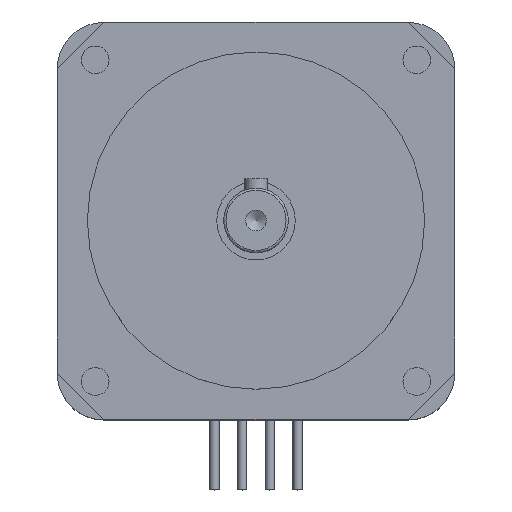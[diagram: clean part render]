
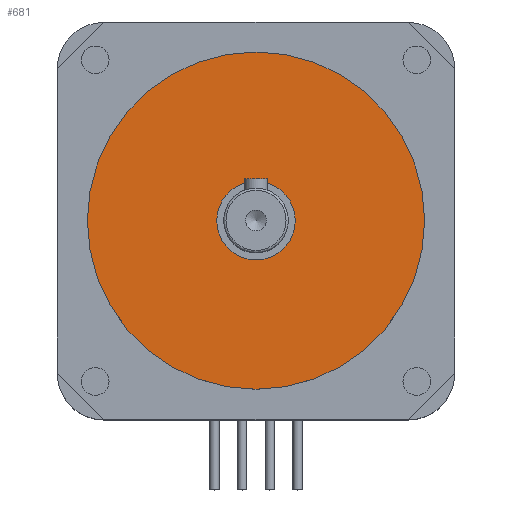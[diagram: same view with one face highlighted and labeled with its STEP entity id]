
A CAD part, top view. The second image highlights one B-rep face of the part: STEP entity #681.
In plain terms, the highlighted planar face has unit normal (0, 0, 1).
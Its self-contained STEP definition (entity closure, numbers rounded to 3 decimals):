
#598=PLANE('',#2242);
#681=ADVANCED_FACE('',(#864,#865),#598,.F.);
#864=FACE_BOUND('',#915,.T.);
#865=FACE_BOUND('',#916,.T.);
#915=EDGE_LOOP('',(#1073));
#916=EDGE_LOOP('',(#1074));
#1073=ORIENTED_EDGE('',*,*,#1846,.F.);
#1074=ORIENTED_EDGE('',*,*,#1841,.F.);
#1640=VERTEX_POINT('',#3113);
#1645=VERTEX_POINT('',#3127);
#1841=EDGE_CURVE('',#1640,#1640,#2129,.T.);
#1846=EDGE_CURVE('',#1645,#1645,#2134,.T.);
#2129=CIRCLE('',#2230,8.5);
#2134=CIRCLE('',#2239,36.5);
#2230=AXIS2_PLACEMENT_3D('',#3112,#2463,#2464);
#2239=AXIS2_PLACEMENT_3D('',#3126,#2481,#2482);
#2242=AXIS2_PLACEMENT_3D('',#3131,#2487,#2488);
#2463=DIRECTION('',(0.,0.,1.));
#2464=DIRECTION('',(1.,0.,0.));
#2481=DIRECTION('',(0.,0.,-1.));
#2482=DIRECTION('',(1.,0.,0.));
#2487=DIRECTION('',(0.,0.,-1.));
#2488=DIRECTION('',(-1.,0.,0.));
#3112=CARTESIAN_POINT('',(0.,0.,2.5));
#3113=CARTESIAN_POINT('',(8.5,0.,2.5));
#3126=CARTESIAN_POINT('',(0.,0.,2.5));
#3127=CARTESIAN_POINT('',(36.5,0.,2.5));
#3131=CARTESIAN_POINT('',(0.,0.,2.5));
